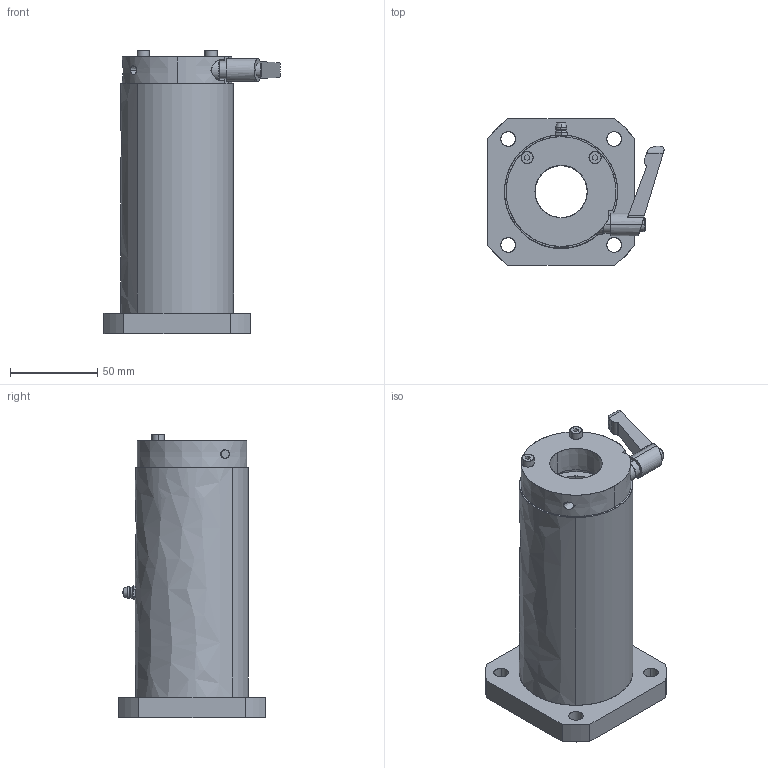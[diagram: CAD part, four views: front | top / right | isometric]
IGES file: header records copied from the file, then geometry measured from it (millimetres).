
Start section: SolidWorks IGES file using analytic representation for surfaces
Global section: file name: C:\Users\yamad\Desktop\IGES\LFWK30-OH-C.IGS; native system: SolidWorks 2019; preprocessor: SolidWorks 2019; author: yamad; date: 230626.171427; units: millimetre
Bounding box: 101.1 x 84 x 163 mm (x, y, z)
Surface area: 80635.5 mm2 (no closed solid volume)
Topology: 0 solids, 0 shells, 234 faces, 5866 edges, 5864 vertices
Faces by surface type: bspline 126, revolution 108
